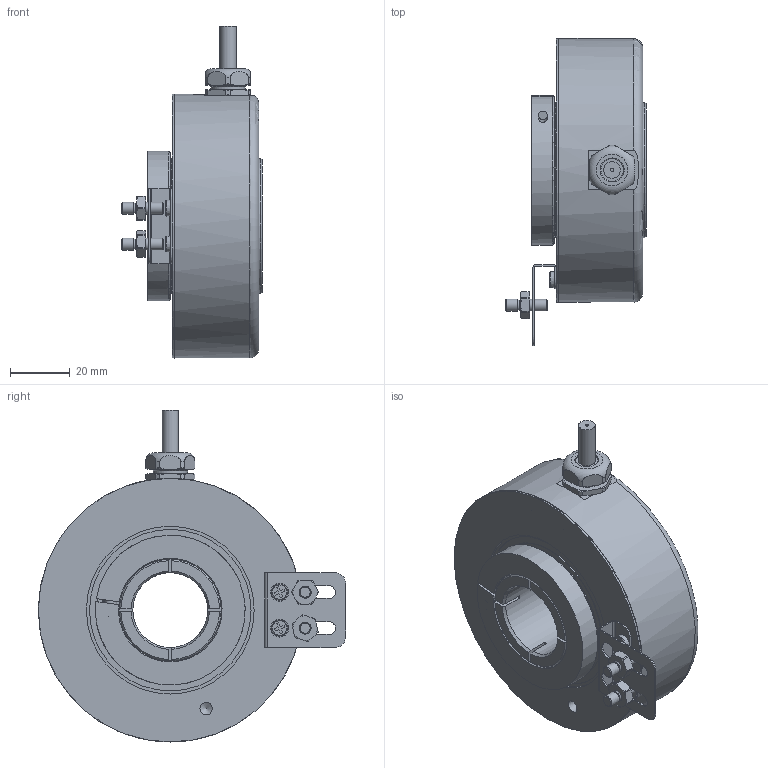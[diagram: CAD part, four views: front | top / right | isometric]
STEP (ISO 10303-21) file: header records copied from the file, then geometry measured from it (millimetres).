
FILE_DESCRIPTION( ( 'Unknown' ), '1' );
FILE_NAME( 'X:/I - Italia/UT - Ufficio Tecnico/Documenti Tecnico/Schede prodotti/InDesign/Assiemi SolidEdge per cataloghi/STEP ASSIEMI/EH88PE_2017.stp', 'Unknown', ( 'Unknown' ), ( 'Unknown' ), 'PSStep 17.0.49', 'Unknown', ' ' );
FILE_SCHEMA( ( 'AUTOMOTIVE_DESIGN { 1 0 10303 214 1 1 1 1 }' ) );
Length unit declared in the file: millimetre
Products named in the file (60): 23310098A1 - assemblato generale; 23310098A1 -  corpo centrale; 23310098A1 - dado Pg7; 23310098A1 -  controdado; 23310098A1; Assem1; 23300424 - VTCBCE M4 x 20; 23300424 - VTCBCE M4 x 20-oa0; 23300036 - UNI 6107 M3x4 TC; 23300036 - UNI 6107 M3x4 TC-oa1; 23290050 - Cuscinetto 6809 58x45x7; 23290050 - Cuscinetto 6809 58x45x7-oa2; 41890211D1; cavo_dritto; 41320665D1; UNI 5931 M4x16 TCEI; 23320073; 44010183A1; 41330366; 41890246
Assembly tree (60 placements, depth 3):
  Assem1
    23300424 - VTCBCE M4 x 20
    23300424 - VTCBCE M4 x 20-oa0
    23300036 - UNI 6107 M3x4 TC
    23300036 - UNI 6107 M3x4 TC-oa1
    23290050 - Cuscinetto 6809 58x45x7
    23290050 - Cuscinetto 6809 58x45x7
    23290050 - Cuscinetto 6809 58x45x7
    23290050 - Cuscinetto 6809 58x45x7
    23290050 - Cuscinetto 6809 58x45x7
    23290050 - Cuscinetto 6809 58x45x7
    23290050 - Cuscinetto 6809 58x45x7
    23290050 - Cuscinetto 6809 58x45x7
    23290050 - Cuscinetto 6809 58x45x7
    23290050 - Cuscinetto 6809 58x45x7
    23290050 - Cuscinetto 6809 58x45x7
    23290050 - Cuscinetto 6809 58x45x7
    23290050 - Cuscinetto 6809 58x45x7
    23290050 - Cuscinetto 6809 58x45x7
    23290050 - Cuscinetto 6809 58x45x7
    23290050 - Cuscinetto 6809 58x45x7
    23290050 - Cuscinetto 6809 58x45x7
    23290050 - Cuscinetto 6809 58x45x7
    23290050 - Cuscinetto 6809 58x45x7
    23290050 - Cuscinetto 6809 58x45x7
    23290050 - Cuscinetto 6809 58x45x7
    23290050 - Cuscinetto 6809 58x45x7-oa2
    23290050 - Cuscinetto 6809 58x45x7-oa2
    23290050 - Cuscinetto 6809 58x45x7-oa2
    23290050 - Cuscinetto 6809 58x45x7-oa2
    23290050 - Cuscinetto 6809 58x45x7-oa2
    23290050 - Cuscinetto 6809 58x45x7-oa2
    23290050 - Cuscinetto 6809 58x45x7-oa2
    23290050 - Cuscinetto 6809 58x45x7-oa2
    23290050 - Cuscinetto 6809 58x45x7-oa2
    23290050 - Cuscinetto 6809 58x45x7-oa2
    23290050 - Cuscinetto 6809 58x45x7-oa2
    23290050 - Cuscinetto 6809 58x45x7-oa2
    23290050 - Cuscinetto 6809 58x45x7-oa2
    23290050 - Cuscinetto 6809 58x45x7-oa2
    23290050 - Cuscinetto 6809 58x45x7-oa2
    23290050 - Cuscinetto 6809 58x45x7-oa2
    23290050 - Cuscinetto 6809 58x45x7-oa2
    23290050 - Cuscinetto 6809 58x45x7-oa2
    23290050 - Cuscinetto 6809 58x45x7-oa2
    23290050 - Cuscinetto 6809 58x45x7-oa2
    23290050 - Cuscinetto 6809 58x45x7-oa2
    41890211D1
    cavo_dritto
    41320665D1
    UNI 5931 M4x16 TCEI
    23320073
    44010183A1
    41330366
    41890246  x2
    23310098A1 - assemblato generale
      23310098A1 -  corpo centrale
      23310098A1 - dado Pg7
      23310098A1 -  controdado
      23310098A1
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Bounding box: 46.8 x 102.5 x 110.79 mm (x, y, z)
Volume: 106287.8 mm3; surface area: 73729 mm2
Topology: 59 solids, 61 shells, 497 faces, 1208 edges, 790 vertices
Faces by surface type: plane 186, cylinder 128, cone 105, sphere 40, torus 38
Full cylindrical faces by diameter (mm): 1 x1, 2.013 x6, 2.459 x2, 3 x2, 3.2 x2, 3.242 x3, 3.9 x2, 4 x5, 4.134 x1, 4.2 x3, 5.5 x2, 6 x2, 7 x3, 7.2 x1, 7.5 x1, 7.7 x1, 8.2 x2, 8.917 x1, 10 x2, 11.5 x1, 11.89 x1, 12.5 x1, 25 x1, 45 x4, 46.4 x1, 47 x2, 49.1 x4, 50 x1, 53.9 x4, 56 x4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
Entity records: 17277 total; most frequent: CARTESIAN_POINT 2882, DIRECTION 2107, ORIENTED_EDGE 1642, AXIS2_PLACEMENT_3D 890, EDGE_CURVE 821, VERTEX_POINT 707, EDGE_LOOP 647, FACE_OUTER_BOUND 527
